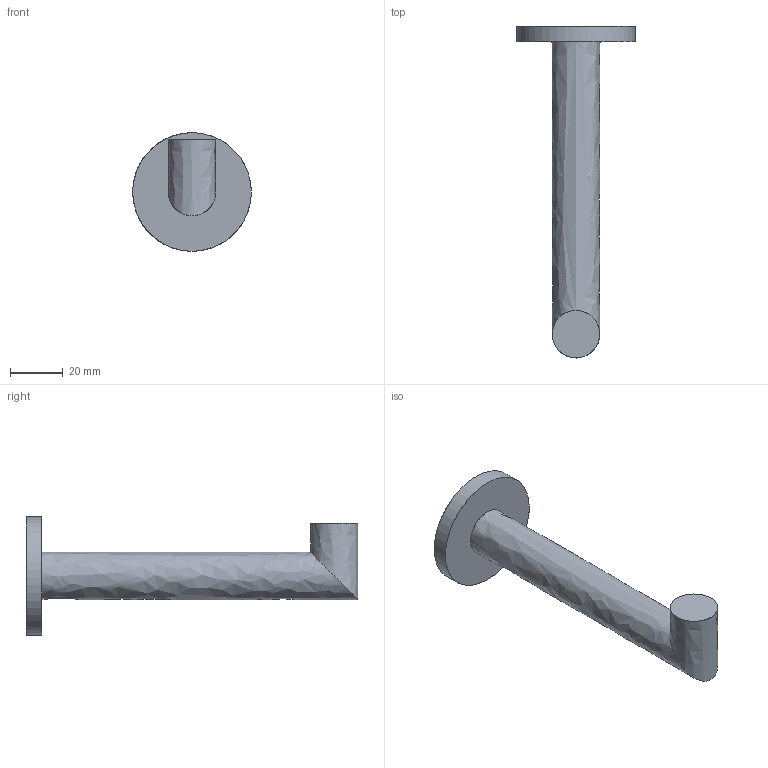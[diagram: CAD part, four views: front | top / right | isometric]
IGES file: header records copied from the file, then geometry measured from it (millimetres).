
Global section: file name: /Users/f/Desktop/II/AE234.igs; native system: Rhinoceros ( Jul 22 2010 ); preprocessor: Trout Lake IGES 012 Jul 22 2010; date: 100802.145041; units: millimetre
Bounding box: 45 x 126 x 45 mm (x, y, z)
Surface area: 11950.3 mm2 (no closed solid volume)
Topology: 0 solids, 0 shells, 7 faces, 107 edges, 105 vertices
Faces by surface type: bspline 7
